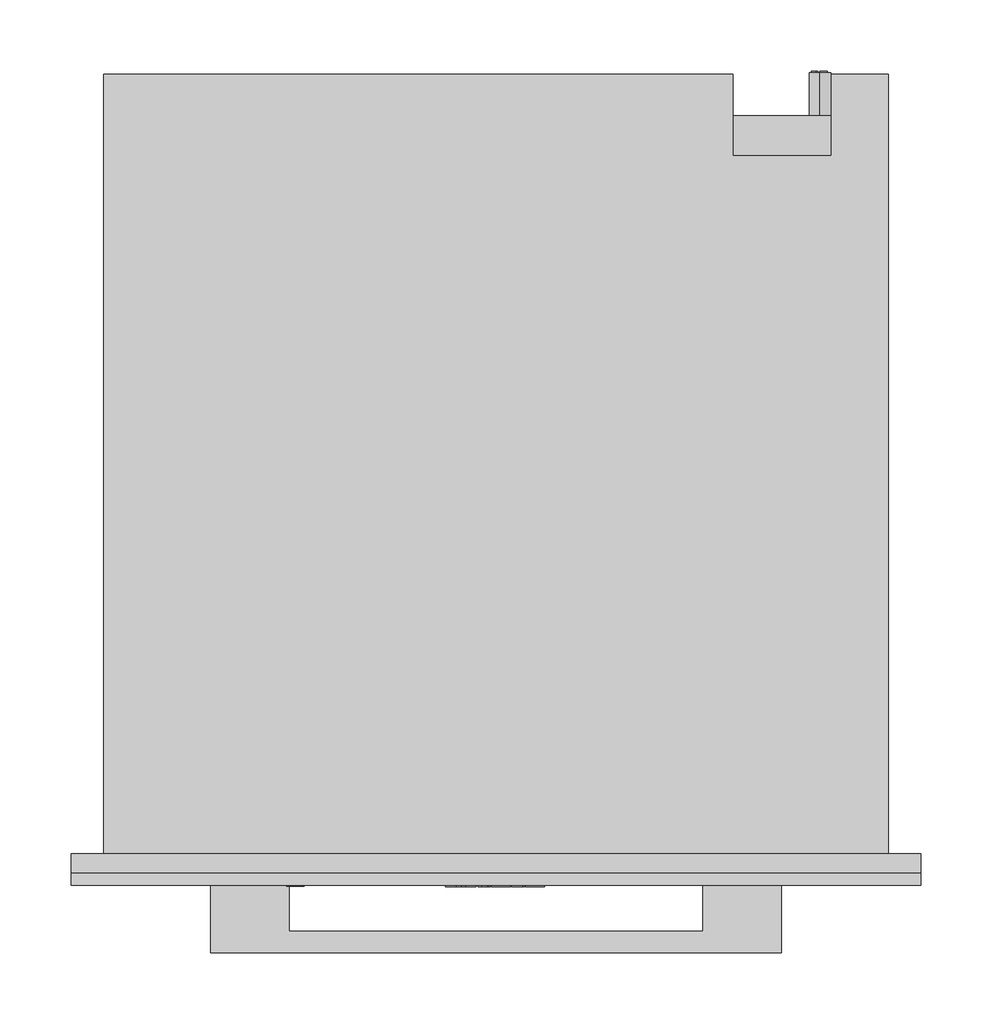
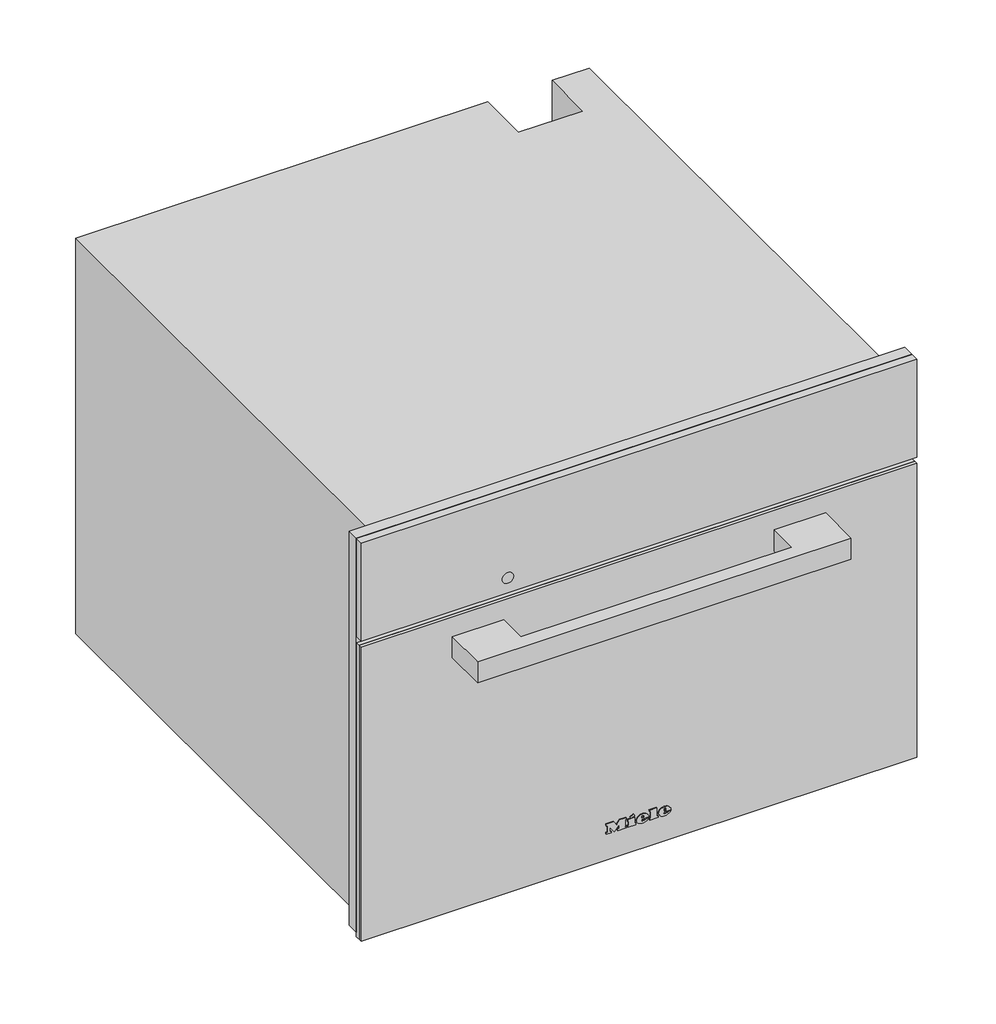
# Not in any storey: 1 proxy.
"""IFC4 building model written with IfcOpenShell, lengths in millimetres."""

import ifcopenshell
import ifcopenshell.guid

model = None  # the IFC model being written
_history = None  # IfcOwnerHistory: only IFC2X3 demands one
_inside = {}  # id of a spatial element -> (the spatial element, [elements in it])
_under = {}  # id of a project, library or spatial element -> (it, [spatial elements below it])
_declared = {}  # id of a project -> (the project, [libraries it declares])
_typed = {}  # id of a type object -> (the type object, [elements of that type])
_made_of = {}  # id of a material, layer set ... -> (it, [elements and type objects made of it])


def new_model(schema):
    """Start an empty IFC model of exactly this schema.

    Asked for "IFC4X3", IfcOpenShell would pick the latest addendum, in which some entities
    have other attributes; the version numbers below select the first issue.
    IFC2X3 requires an IfcOwnerHistory on every rooted entity: one is made here for all.
    """
    global model, _history
    if schema == "IFC4X3":
        model = ifcopenshell.file(schema_version=(4, 3, 0, 0))
    else:
        model = ifcopenshell.file(schema=schema)
    _inside.clear()
    _under.clear()
    _declared.clear()
    _typed.clear()
    _made_of.clear()
    _history = None
    if model.schema == "IFC2X3":
        org = make("IfcOrganization", Name="unknown")
        user = make(
            "IfcPersonAndOrganization",
            ThePerson=make("IfcPerson", FamilyName="unknown"),
            TheOrganization=org,
        )
        app = make(
            "IfcApplication",
            ApplicationDeveloper=org,
            Version="unknown",
            ApplicationFullName="unknown",
            ApplicationIdentifier="unknown",
        )
        _history = make(
            "IfcOwnerHistory",
            OwningUser=user,
            OwningApplication=app,
            ChangeAction="ADDED",
            CreationDate=0,
        )
    return model


def make(cls, **values):
    """One entity of the class cls with the attributes given. An attribute that is None is left unset."""
    return model.create_entity(
        cls, **{name: value for name, value in values.items() if value is not None}
    )


def rooted(cls, **values):
    """An entity with a GlobalId (a new one), such as an element, a storey or a relation."""
    return make(cls, GlobalId=ifcopenshell.guid.new(), OwnerHistory=_history, **values)


def si_unit(unit_type, name, prefix=None):
    """IfcSIUnit, for example si_unit("LENGTHUNIT", "METRE", prefix="MILLI")."""
    return make("IfcSIUnit", UnitType=unit_type, Prefix=prefix, Name=name)


def assignment(units):
    """IfcUnitAssignment: the units of a project."""
    return None if units is None else make("IfcUnitAssignment", Units=units)


def point(xyz):
    """IfcCartesianPoint."""
    return None if xyz is None else make("IfcCartesianPoint", Coordinates=xyz)


def direction(xyz):
    """IfcDirection."""
    return None if xyz is None else make("IfcDirection", DirectionRatios=xyz)


def frame(location, z_axis=None, x_axis=None):
    """IfcAxis2Placement3D, a coordinate frame: its origin and axes. An axis left out is left unset."""
    return make(
        "IfcAxis2Placement3D",
        Location=point(location),
        Axis=direction(z_axis),
        RefDirection=direction(x_axis),
    )


def frame_2d(location, x_axis=None):
    """IfcAxis2Placement2D, a coordinate frame in the plane: its origin and x axis."""
    return make(
        "IfcAxis2Placement2D", Location=point(location), RefDirection=direction(x_axis)
    )


def origin():
    """The frame at (0, 0, 0) with its axes left unset."""
    return frame((0.0, 0.0, 0.0))


def place(relative_to, where):
    """IfcLocalPlacement: puts the frame where relative to a parent placement (None: the world)."""
    return make(
        "IfcLocalPlacement", PlacementRelTo=relative_to, RelativePlacement=where
    )


def context(
    kind, dimensions, precision=None, world=None, true_north=None, identifier=None
):
    """IfcGeometricRepresentationContext, for example the 3D "Model" context."""
    return make(
        "IfcGeometricRepresentationContext",
        ContextIdentifier=identifier,
        ContextType=kind,
        CoordinateSpaceDimension=dimensions,
        Precision=precision,
        WorldCoordinateSystem=world,
        TrueNorth=true_north,
    )


def project(units=None, contexts=None):
    """IfcProject with its units and contexts."""
    return rooted(
        "IfcProject",
        Name="project",
        RepresentationContexts=contexts,
        UnitsInContext=assignment(units),
    )


def spatial(cls, under=None, at=None, **own):
    """A site, building, storey or space (cls), placed at a placement, below another one or the project."""
    s = rooted(cls, ObjectPlacement=at, **own)
    if under is not None:
        _under.setdefault(under.id(), (under, []))[1].append(s)
    return s


def polyline(points):
    """IfcPolyline through the points."""
    return make("IfcPolyline", Points=[point(p) for p in points])


def circle_curve(where, radius):
    """IfcCircle in the frame where."""
    return make("IfcCircle", Position=where, Radius=radius)


def ellipse_curve(where, semi_axis1, semi_axis2):
    """IfcEllipse in the frame where."""
    return make(
        "IfcEllipse", Position=where, SemiAxis1=semi_axis1, SemiAxis2=semi_axis2
    )


def trimmed(basis, trim1, trim2, sense, master):
    """IfcTrimmedCurve: the piece of a basis curve between two trims."""
    return make(
        "IfcTrimmedCurve",
        BasisCurve=basis,
        Trim1=trim1,
        Trim2=trim2,
        SenseAgreement=sense,
        MasterRepresentation=master,
    )


def segment(curve, same_sense, transition):
    """IfcCompositeCurveSegment."""
    return make(
        "IfcCompositeCurveSegment",
        Transition=transition,
        SameSense=same_sense,
        ParentCurve=curve,
    )


def composite_curve(segments, self_intersect=None):
    """IfcCompositeCurve: segments joined end to end."""
    return make("IfcCompositeCurve", Segments=segments, SelfIntersect=self_intersect)


def outline(outer, holes=None, kind="AREA"):
    """IfcArbitraryClosedProfileDef: a profile drawn as a closed curve; with holes, ...WithVoids."""
    if holes is None:
        return make("IfcArbitraryClosedProfileDef", ProfileType=kind, OuterCurve=outer)
    return make(
        "IfcArbitraryProfileDefWithVoids",
        ProfileType=kind,
        OuterCurve=outer,
        InnerCurves=holes,
    )


def extrude(swept, where, along, depth):
    """IfcExtrudedAreaSolid: the profile swept, set in the frame where, extruded along a direction by depth."""
    return make(
        "IfcExtrudedAreaSolid",
        SweptArea=swept,
        Position=where,
        ExtrudedDirection=direction(along),
        Depth=depth,
    )


def faces_of(points, faces, orient=None, outer=None):
    """IfcFace entities. A face is a list of loops; a loop is a list of indices into points, from 0.

    orient and outer hold one flag for each loop. By default every Orientation is true, the
    first loop of a face is its IfcFaceOuterBound and the others are IfcFaceBound.
    """
    made = []
    for i, loops in enumerate(faces):
        bounds = []
        for j, loop in enumerate(loops):
            is_outer = j == 0 if outer is None else outer[i][j]
            bounds.append(
                make(
                    "IfcFaceOuterBound" if is_outer else "IfcFaceBound",
                    Bound=make("IfcPolyLoop", Polygon=[points[k] for k in loop]),
                    Orientation=True if orient is None else orient[i][j],
                )
            )
        made.append(make("IfcFace", Bounds=bounds))
    return made


def faceted_brep(points, faces, orient=None, outer=None, voids=None):
    """IfcFacetedBrep: a solid bounded by flat faces; with voids (closed shells), ...WithVoids."""
    shared = [point(p) for p in points]
    hull = make("IfcClosedShell", CfsFaces=faces_of(shared, faces, orient, outer))
    if voids is None:
        return make("IfcFacetedBrep", Outer=hull)
    return make(
        "IfcFacetedBrepWithVoids",
        Outer=hull,
        Voids=[
            make(cls, CfsFaces=faces_of(shared, fs, o, b)) for cls, fs, o, b in voids
        ],
    )


def shape(context_of_items, identifier, shape_type, items):
    """IfcShapeRepresentation: the items that make up one representation, for example the "Body"."""
    return make(
        "IfcShapeRepresentation",
        ContextOfItems=context_of_items,
        RepresentationIdentifier=identifier,
        RepresentationType=shape_type,
        Items=items,
    )


def source(mapping_origin, context_of_items, identifier, shape_type, items):
    """IfcRepresentationMap: a shape defined once, which mapped items show again and again."""
    return make(
        "IfcRepresentationMap",
        MappingOrigin=mapping_origin,
        MappedRepresentation=shape(context_of_items, identifier, shape_type, items),
    )


def transform(
    local_origin,
    x_axis=None,
    y_axis=None,
    z_axis=None,
    scale=None,
    scale2=None,
    scale3=None,
    uniform=True,
):
    """IfcCartesianTransformationOperator3D, or its non-uniform kind. x_axis, y_axis, z_axis: its Axis1, 2, 3."""
    if uniform:
        return make(
            "IfcCartesianTransformationOperator3D",
            Axis1=direction(x_axis),
            Axis2=direction(y_axis),
            LocalOrigin=point(local_origin),
            Scale=scale,
            Axis3=direction(z_axis),
        )
    return make(
        "IfcCartesianTransformationOperator3DnonUniform",
        Axis1=direction(x_axis),
        Axis2=direction(y_axis),
        LocalOrigin=point(local_origin),
        Scale=scale,
        Axis3=direction(z_axis),
        Scale2=scale2,
        Scale3=scale3,
    )


def mapped(mapping_source, mapping_target):
    """IfcMappedItem: shows the shape of a source again, moved by a transform."""
    return make(
        "IfcMappedItem", MappingSource=mapping_source, MappingTarget=mapping_target
    )


def made_of(thing, what):
    """Note that an element or type object is made of a material, layer set ...; save() writes the relation."""
    if what is not None:
        _made_of.setdefault(what.id(), (what, []))[1].append(thing)
    return thing


def element(
    cls,
    number,
    at=None,
    inside=None,
    cuts=None,
    type_object=None,
    material=None,
    context=None,
    identifier="Body",
    shape_type=None,
    held_by="IfcProductDefinitionShape",
    body=None,
    shapes=None,
    **own,
):
    """One element of the class cls, such as IfcWall. Its Tag is "e" and its number.

    at: its placement. inside: the storey or other place that contains it. cuts: it is an
    opening in that element (IfcRelVoidsElement). A single representation is given by context,
    identifier, shape_type and body (its items); several are given by shapes. held_by: the class
    of the entity that holds the representations. save() writes the other relations.
    """
    e = rooted(cls, Tag="e%d" % number, ObjectPlacement=at, **own)
    if body is not None:
        shapes = [shape(context, identifier, shape_type, body)]
    if shapes is not None:
        e.Representation = make(held_by, Representations=shapes)
    if inside is not None:
        _inside.setdefault(inside.id(), (inside, []))[1].append(e)
    if cuts is not None:
        rooted(
            "IfcRelVoidsElement", RelatingBuildingElement=cuts, RelatedOpeningElement=e
        )
    if type_object is not None:
        _typed.setdefault(type_object.id(), (type_object, []))[1].append(e)
    return made_of(e, material)


def aggregate(whole, parts):
    """IfcRelAggregates: a whole, such as a stair, and the parts it consists of."""
    return rooted("IfcRelAggregates", RelatingObject=whole, RelatedObjects=parts)


def save(model, path):
    """Write the relations noted so far, then the file.

    IfcRelAggregates (storeys below a building ...), IfcRelContainedInSpatialStructure (elements
    in a storey), IfcRelDefinesByType, IfcRelAssociatesMaterial and IfcRelDeclares: one each for
    every whole, place, type object, material and project.
    """
    for whole, parts in _under.values():
        aggregate(whole, parts)
    for where, things in _inside.values():
        rooted(
            "IfcRelContainedInSpatialStructure",
            RelatedElements=things,
            RelatingStructure=where,
        )
    for kind, things in _typed.values():
        rooted("IfcRelDefinesByType", RelatedObjects=things, RelatingType=kind)
    for what, things in _made_of.values():
        rooted("IfcRelAssociatesMaterial", RelatedObjects=things, RelatingMaterial=what)
    for by, libraries in _declared.values():
        rooted("IfcRelDeclares", RelatingContext=by, RelatedDefinitions=libraries)
    model.write(path)


def plane_surface(at):
    """IfcPlane: the flat surface through the origin of the frame at, square to its z axis."""
    return make("IfcPlane", Position=at)


def cylinder_surface(at, radius):
    """IfcCylindricalSurface: all points at the distance radius from the z axis of the frame at."""
    return make("IfcCylindricalSurface", Position=at, Radius=radius)


def revolved_surface(curve, axis_point, axis_direction):
    """IfcSurfaceOfRevolution: the curve turned about the line through axis_point along axis_direction."""
    return make(
        "IfcSurfaceOfRevolution",
        SweptCurve=make("IfcArbitraryOpenProfileDef", ProfileType="CURVE", Curve=curve),
        AxisPosition=make("IfcAxis1Placement", Location=point(axis_point), Axis=direction(axis_direction)),
    )


def extruded_surface(curve, direction_of_extrusion, depth):
    """IfcSurfaceOfLinearExtrusion: the curve pushed along a direction by depth."""
    return make(
        "IfcSurfaceOfLinearExtrusion",
        SweptCurve=make("IfcArbitraryOpenProfileDef", ProfileType="CURVE", Curve=curve),
        ExtrudedDirection=direction(direction_of_extrusion),
        Depth=depth,
    )


def advanced_brep(points, edges, surfaces, faces):
    """IfcAdvancedBrep: a solid bounded by faces that lie on surfaces and meet in shared edges.

    An edge is (start, end): straight between two places in points (the first is 0);
    or (start, end, curve); or (start, end, curve, False) where it runs against its curve.
    A face is (place in surfaces, loops), or (place, loops, False) where it looks against
    its surface's normal. A loop lists edges by number (the first is 1), with a minus sign
    where the edge is run from its end to its start. The first loop is the outer one.
    """
    corners = [point(p) for p in points]
    vertices = [make("IfcVertexPoint", VertexGeometry=c) for c in corners]
    made = []
    for start, end, *more in edges:
        made.append(
            make(
                "IfcEdgeCurve",
                EdgeStart=vertices[start],
                EdgeEnd=vertices[end],
                EdgeGeometry=more[0] if more else make("IfcPolyline", Points=[corners[start], corners[end]]),
                SameSense=more[1] if len(more) > 1 else True,
            )
        )
    hull = []
    for where, loops, *sense in faces:
        bounds = []
        for j, loop in enumerate(loops):
            ring = [make("IfcOrientedEdge", EdgeElement=made[abs(k) - 1], Orientation=k > 0) for k in loop]
            bounds.append(
                make(
                    "IfcFaceOuterBound" if j == 0 else "IfcFaceBound",
                    Bound=make("IfcEdgeLoop", EdgeList=ring),
                    Orientation=True,
                )
            )
        hull.append(make("IfcAdvancedFace", Bounds=bounds, FaceSurface=surfaces[where], SameSense=sense[0] if sense else True))
    return make("IfcAdvancedBrep", Outer=make("IfcClosedShell", CfsFaces=hull))


def specialty_equipment_21fb220e(model_context):
    return source(origin(), model_context, "Body", "SolidModel", [
        extrude(outline(polyline([(455.0, 297.5), (455.0, -297.5), (9.0, -297.5), (9.0, 297.5), (455.0, 297.5)]), holes=[polyline([(344.0, -272.5), (344.0, 272.5), (27.0, 272.5), (27.0, -272.5), (344.0, -272.5)])]), frame((0.0, -13.0, 0.0), z_axis=(0.0, 1.0, 0.0), x_axis=(0.0, 0.0, 1.0)), (0.0, 0.0, 1.0), 13.0),
        advanced_brep(
        [(227.0, 547.0, 255.5), (227.0, 547.0, 240.5), (221.4098301, 547.0, 243.0), (225.5, 547.0, 243.0), (225.5, 547.0, 253.0), (224.4955303, 547.0, 253.0), (224.4955303, 547.0, 244.0), (221.0315043, 547.0, 244.0), (221.0315043, 547.0, 243.4582978), (232.0, 547.0, 243.0), (232.0, 547.0, 253.0), (227.0, 547.0, 253.0), (227.0, 547.0, 252.0), (231.0, 547.0, 252.0), (231.0, 547.0, 248.5), (228.0, 547.0, 248.5), (228.0, 547.0, 247.5), (231.0, 547.0, 247.5), (231.0, 547.0, 244.0), (227.0, 547.0, 244.0), (227.0, 547.0, 243.0), (227.0, 517.0, 240.5), (227.0, 517.0, 255.5), (232.0, 548.0, 253.0), (232.0, 548.0, 243.0), (227.0, 548.0, 243.0), (227.0, 548.0, 244.0), (231.0, 548.0, 244.0), (231.0, 548.0, 247.5), (228.0, 548.0, 247.5), (228.0, 548.0, 248.5), (231.0, 548.0, 248.5), (231.0, 548.0, 252.0), (227.0, 548.0, 252.0), (227.0, 548.0, 253.0), (225.5, 548.0, 243.0), (221.0315043, 548.0, 243.0), (221.0315043, 548.0, 244.0), (224.4955303, 548.0, 244.0), (224.4955303, 548.0, 253.0), (225.5, 548.0, 253.0), (221.0315043, 547.0, 243.0)],
        [
            (0, 1, circle_curve(frame((227.0, 547.0, 248.0), z_axis=(0.0, 1.0, 0.0), x_axis=(0.0, 0.0, 1.0)), 7.5)),
            (1, 2, circle_curve(frame((227.0, 547.0, 248.0), z_axis=(0.0, 1.0, 0.0), x_axis=(0.0, 0.0, 1.0)), 7.5)),
            (2, 3),
            (3, 4),
            (4, 5),
            (5, 6),
            (6, 7),
            (7, 8),
            (8, 0, circle_curve(frame((227.0, 547.0, 248.0), z_axis=(0.0, 1.0, 0.0), x_axis=(0.0, 0.0, 1.0)), 7.5)),
            (9, 10),
            (10, 11),
            (11, 12),
            (12, 13),
            (13, 14),
            (14, 15),
            (15, 16),
            (16, 17),
            (17, 18),
            (18, 19),
            (19, 20),
            (20, 9),
            (21, 22, circle_curve(frame((227.0, 517.0, 248.0), z_axis=(0.0, -1.0, 0.0), x_axis=(0.0, 0.0, 1.0)), 7.5)),
            (22, 21, circle_curve(frame((227.0, 517.0, 248.0), z_axis=(0.0, -1.0, 0.0), x_axis=(0.0, 0.0, 1.0)), 7.5)),
            (0, 22),
            (21, 1),
            (8, 2, circle_curve(frame((227.0, 547.0, 248.0), z_axis=(0.0, -1.0, 0.0), x_axis=(0.0, 0.0, 1.0)), 7.5)),
            (23, 24),
            (24, 25),
            (25, 26),
            (26, 27),
            (27, 28),
            (28, 29),
            (29, 30),
            (30, 31),
            (31, 32),
            (32, 33),
            (33, 34),
            (34, 23),
            (35, 36),
            (36, 37),
            (37, 38),
            (38, 39),
            (39, 40),
            (40, 35),
            (8, 41),
            (41, 2),
            (23, 10),
            (9, 24),
            (20, 25),
            (19, 26),
            (18, 27),
            (17, 28),
            (16, 29),
            (15, 30),
            (14, 31),
            (13, 32),
            (12, 33),
            (11, 34),
            (35, 3),
            (41, 36),
            (7, 37),
            (6, 38),
            (5, 39),
            (4, 40),
        ],
        [
            plane_surface(frame((227.0, 547.0, 255.5), z_axis=(0.0, 1.0, 0.0), x_axis=(1.0, 0.0, 0.0))),
            plane_surface(frame((227.0, 517.0, 255.5), z_axis=(0.0, -1.0, 0.0), x_axis=(-1.0, 0.0, 0.0))),
            cylinder_surface(frame((227.0, 547.0, 248.0), z_axis=(0.0, -1.0, 0.0), x_axis=(0.0, 0.0, 1.0)), 7.5),
            plane_surface(frame((232.0, 548.0, 253.0), z_axis=(0.0, 1.0, 0.0), x_axis=(0.0, 0.0, -1.0))),
            plane_surface(frame((232.0, 547.0, 253.0), z_axis=(0.0, -1.0, 0.0), x_axis=(0.0, 0.0, 1.0))),
            plane_surface(frame((232.0, 548.0, 253.0), z_axis=(1.0, 0.0, 0.0), x_axis=(0.0, -1.0, 0.0))),
            plane_surface(frame((232.0, 548.0, 243.0), z_axis=(0.0, 0.0, -1.0), x_axis=(0.0, -1.0, 0.0))),
            plane_surface(frame((227.0, 548.0, 243.0), z_axis=(-1.0, 0.0, 0.0), x_axis=(0.0, -1.0, 0.0))),
            plane_surface(frame((227.0, 548.0, 244.0), z_axis=(0.0, 0.0, 1.0), x_axis=(0.0, -1.0, 0.0))),
            plane_surface(frame((231.0, 548.0, 244.0), z_axis=(-1.0, 0.0, 0.0), x_axis=(0.0, -1.0, 0.0))),
            plane_surface(frame((231.0, 548.0, 247.5), z_axis=(0.0, 0.0, -1.0), x_axis=(0.0, -1.0, 0.0))),
            plane_surface(frame((228.0, 548.0, 247.5), z_axis=(-1.0, 0.0, 0.0), x_axis=(0.0, -1.0, 0.0))),
            plane_surface(frame((228.0, 548.0, 248.5), z_axis=(0.0, 0.0, 1.0), x_axis=(0.0, -1.0, 0.0))),
            plane_surface(frame((231.0, 548.0, 248.5), z_axis=(-1.0, 0.0, 0.0), x_axis=(0.0, -1.0, 0.0))),
            plane_surface(frame((231.0, 548.0, 252.0), z_axis=(0.0, 0.0, -1.0), x_axis=(0.0, -1.0, 0.0))),
            plane_surface(frame((227.0, 548.0, 252.0), z_axis=(-1.0, 0.0, 0.0), x_axis=(0.0, -1.0, 0.0))),
            plane_surface(frame((227.0, 548.0, 253.0), z_axis=(0.0, 0.0, 1.0), x_axis=(0.0, -1.0, 0.0))),
            plane_surface(frame((225.5, 548.0, 243.0), z_axis=(0.0, 0.0, -1.0), x_axis=(0.0, -1.0, 0.0))),
            plane_surface(frame((221.0315043, 548.0, 243.0), z_axis=(-1.0, 0.0, 0.0), x_axis=(0.0, -1.0, 0.0))),
            plane_surface(frame((221.0315043, 548.0, 244.0), z_axis=(0.0, 0.0, 1.0), x_axis=(0.0, -1.0, 0.0))),
            plane_surface(frame((224.4955303, 548.0, 244.0), z_axis=(-1.0, 0.0, 0.0), x_axis=(0.0, -1.0, 0.0))),
            plane_surface(frame((224.4955303, 548.0, 253.0), z_axis=(0.0, 0.0, 1.0), x_axis=(0.0, -1.0, 0.0))),
            plane_surface(frame((225.5, 548.0, 253.0), z_axis=(1.0, 0.0, 0.0), x_axis=(0.0, -1.0, 0.0))),
        ],
        [
            (0, [[1, 2, 3, 4, 5, 6, 7, 8, 9], [10, 11, 12, 13, 14, 15, 16, 17, 18, 19, 20, 21]]),
            (1, [[22, 23]]),
            (2, [[-1, 24, -22, 25]]),
            (2, [[-23, -24, -9, 26, -2, -25]]),
            (3, [[27, 28, 29, 30, 31, 32, 33, 34, 35, 36, 37, 38]]),
            (3, [[39, 40, 41, 42, 43, 44]]),
            (4, [[45, 46, -26]]),
            (5, [[-27, 47, -10, 48]]),
            (6, [[-28, -48, -21, 49]]),
            (7, [[-29, -49, -20, 50]]),
            (8, [[-30, -50, -19, 51]]),
            (9, [[-31, -51, -18, 52]]),
            (10, [[-32, -52, -17, 53]]),
            (11, [[-33, -53, -16, 54]]),
            (12, [[-34, -54, -15, 55]]),
            (13, [[-35, -55, -14, 56]]),
            (14, [[-36, -56, -13, 57]]),
            (15, [[-37, -57, -12, 58]]),
            (16, [[-38, -58, -11, -47]]),
            (17, [[-39, 59, -3, -46, 60]]),
            (18, [[-40, -60, -45, -8, 61]]),
            (19, [[-41, -61, -7, 62]]),
            (20, [[-42, -62, -6, 63]]),
            (21, [[-43, -63, -5, 64]]),
            (22, [[-44, -64, -4, -59]]),
        ],
    ),
        faceted_brep([(-275.0, 546.0, 0.0), (-275.0, 546.0, 448.0), (166.0, 546.0, 448.0), (166.0, 546.0, 0.0), (235.0, 546.0, 448.0), (275.0, 546.0, 448.0), (275.0, 546.0, 338.0), (235.0, 546.0, 338.0), (275.0, 0.0, 448.0), (-275.0, 0.0, 448.0), (-275.0, 0.0, 0.0), (275.0, 0.0, 0.0), (-272.5, 0.0, 344.0), (272.5, 0.0, 344.0), (272.5, 0.0, 27.0), (-272.5, 0.0, 27.0), (235.0, 489.0, 448.0), (166.0, 489.0, 448.0), (166.0, 517.0, 0.0), (275.0, 517.0, 0.0), (275.0, 517.0, 338.0), (272.5, 17.0, 344.0), (-272.5, 17.0, 344.0), (-272.5, 17.0, 27.0), (272.5, 17.0, 27.0), (231.0, 17.0, 307.0), (231.0, 17.0, 65.0), (-231.0, 17.0, 65.0), (-231.0, 17.0, 307.0), (231.0, 411.0, 307.0), (-231.0, 411.0, 307.0), (-231.0, 411.0, 65.0), (231.0, 411.0, 65.0), (235.0, 489.0, 337.0), (166.0, 489.0, 337.0), (166.0, 517.0, 337.0), (235.0, 517.0, 337.0), (235.0, 517.0, 338.0)], [[[0, 1, 2, 3]], [[4, 5, 6, 7]], [[8, 9, 10, 11], [12, 13, 14, 15]], [[9, 8, 5, 4, 16, 17, 2, 1]], [[1, 0, 10, 9]], [[11, 10, 0, 3, 18, 19]], [[8, 11, 19, 20, 6, 5]], [[21, 22, 23, 24], [25, 26, 27, 28]], [[22, 21, 13, 12]], [[23, 22, 12, 15]], [[24, 23, 15, 14]], [[21, 24, 14, 13]], [[29, 30, 31, 32]], [[29, 32, 26, 25]], [[32, 31, 27, 26]], [[31, 30, 28, 27]], [[30, 29, 25, 28]], [[16, 33, 34, 17]], [[17, 34, 35, 18, 3, 2]], [[34, 33, 36, 35]], [[33, 16, 4, 7, 37, 36]], [[37, 20, 19, 18, 35, 36]], [[20, 37, 7, 6]]]),
        advanced_brep(
        [(26.2998, -23.0, 36.7018), (26.2998, -23.0, 37.8532), (33.9264, -23.0, 37.8532), (20.6568, -23.0, 37.8532), (23.7918, -23.0, 34.0), (33.7326, -23.0, 36.7018), (30.2898, -23.0, 36.7018), (27.5766, -23.0, 35.425), (26.2998, -23.0, 39.3124), (26.2998, -23.0, 40.555), (28.2492, -23.0, 40.555), (28.2492, -23.0, 39.3124), (26.2998, -22.0, 36.7018), (27.5766, -22.0, 35.425), (30.2898, -22.0, 36.7018), (33.7326, -22.0, 36.7018), (23.7918, -22.0, 34.0), (20.6568, -22.0, 37.8532), (33.9264, -22.0, 37.8532), (26.2998, -22.0, 37.8532), (26.2998, -22.0, 39.3124), (28.2492, -22.0, 39.3124), (28.2492, -22.0, 40.555), (26.2998, -22.0, 40.555)],
        [
            (0, 1),
            (1, 2),
            (2, 3, ellipse_curve(frame((27.2916, -23.0, 37.8532), z_axis=(0.0, -1.0, 0.0), x_axis=(-1.0, 0.0, 0.0)), 6.6348, 5.4834)),
            (3, 4, circle_curve(frame((25.0686622, -23.0, 38.2408), z_axis=(0.0, -1.0, 0.0), x_axis=(0.0, 0.0, -1.0)), 4.4288556)),
            (4, 5, circle_curve(frame((27.1587808, -23.0, 41.2504), z_axis=(0.0, -1.0, 0.0), x_axis=(0.0, 0.0, -1.0)), 7.9940516)),
            (5, 6),
            (6, 7, circle_curve(frame((28.1338588, -23.0, 37.762), z_axis=(0.0, 1.0, 0.0), x_axis=(0.0, 0.0, -1.0)), 2.4025208)),
            (7, 0, circle_curve(frame((27.5766, -23.0, 36.7018), z_axis=(0.0, 1.0, 0.0), x_axis=(0.0, 0.0, -1.0)), 1.2768)),
            (8, 9),
            (9, 10, circle_curve(frame((27.2745, -23.0, 40.555), z_axis=(0.0, 1.0, 0.0), x_axis=(0.0, 0.0, -1.0)), 0.9747)),
            (10, 11),
            (11, 8),
            (12, 13, circle_curve(frame((27.5766, -22.0, 36.7018), z_axis=(0.0, -1.0, 0.0), x_axis=(0.0, 0.0, -1.0)), 1.2768)),
            (13, 14, circle_curve(frame((28.1338588, -22.0, 37.762), z_axis=(0.0, -1.0, 0.0), x_axis=(0.0, 0.0, -1.0)), 2.4025208)),
            (14, 15),
            (15, 16, circle_curve(frame((27.1587808, -22.0, 41.2504), z_axis=(0.0, 1.0, 0.0), x_axis=(0.0, 0.0, -1.0)), 7.9940516)),
            (16, 17, circle_curve(frame((25.0686622, -22.0, 38.2408), z_axis=(0.0, 1.0, 0.0), x_axis=(0.0, 0.0, -1.0)), 4.4288556)),
            (17, 18, ellipse_curve(frame((27.2916, -22.0, 37.8532), z_axis=(0.0, 1.0, 0.0), x_axis=(-1.0, 0.0, 0.0)), 6.6348, 5.4834)),
            (18, 19),
            (19, 12),
            (20, 21),
            (21, 22),
            (22, 23, circle_curve(frame((27.2745, -22.0, 40.555), z_axis=(0.0, -1.0, 0.0), x_axis=(0.0, 0.0, -1.0)), 0.9747)),
            (23, 20),
            (0, 12),
            (19, 1),
            (18, 2),
            (5, 15),
            (14, 6),
            (17, 3),
            (13, 7),
            (16, 4),
            (8, 20),
            (23, 9),
            (22, 10),
            (21, 11),
        ],
        [
            plane_surface(frame((26.2998, -23.0, 37.8532), z_axis=(0.0, -1.0, 0.0), x_axis=(0.0, 0.0, 1.0))),
            plane_surface(frame((26.2998, -22.0, 37.8532), z_axis=(0.0, 1.0, 0.0), x_axis=(0.0, 0.0, -1.0))),
            plane_surface(frame((26.2998, -23.0, 36.7018), z_axis=(1.0, 0.0, 0.0), x_axis=(0.0, 1.0, 0.0))),
            plane_surface(frame((26.2998, -23.0, 37.8532), z_axis=(0.0, 0.0, -1.0), x_axis=(0.0, 1.0, 0.0))),
            plane_surface(frame((33.7326, -23.0, 36.7018), z_axis=(0.0, 0.0, 1.0), x_axis=(0.0, 1.0, 0.0))),
            extruded_surface(trimmed(ellipse_curve(frame((27.2916, -21.0, 37.8532), z_axis=(0.0, -1.0, 0.0), x_axis=(-1.0, 0.0, 0.0)), 6.6348, 5.4834), [point((33.9264, -21.0, 37.8532))], [point((20.6568, -21.0, 37.8532))], True, "CARTESIAN"), (0.0, -1.0, 0.0), 1.0),
            revolved_surface(polyline([(28.1338588, -22.0, 35.3594792), (28.1338588, -23.0, 35.3594792)]), (28.1338588, -22.0, 37.762), (0.0, 1.0, 0.0)),
            revolved_surface(polyline([(27.5766, -22.0, 35.425), (27.5766, -23.0, 35.425)]), (27.5766, -22.0, 36.7018), (0.0, 1.0, 0.0)),
            cylinder_surface(frame((25.0686622, -22.0, 38.2408), z_axis=(0.0, -1.0, 0.0), x_axis=(0.0, 0.0, -1.0)), 4.4288556),
            cylinder_surface(frame((27.1587808, -22.0, 41.2504), z_axis=(0.0, -1.0, 0.0), x_axis=(0.0, 0.0, -1.0)), 7.9940516),
            plane_surface(frame((26.2998, -23.0, 39.3124), z_axis=(1.0, 0.0, 0.0), x_axis=(0.0, 1.0, 0.0))),
            revolved_surface(polyline([(27.2745, -22.0, 39.5803), (27.2745, -23.0, 39.5803)]), (27.2745, -22.0, 40.555), (0.0, 1.0, 0.0)),
            plane_surface(frame((28.2492, -23.0, 40.555), z_axis=(-1.0, 0.0, 0.0), x_axis=(0.0, 1.0, 0.0))),
            plane_surface(frame((28.2492, -23.0, 39.3124), z_axis=(0.0, 0.0, 1.0), x_axis=(0.0, 1.0, 0.0))),
        ],
        [
            (0, [[1, 2, 3, 4, 5, 6, 7, 8], [9, 10, 11, 12]]),
            (1, [[13, 14, 15, 16, 17, 18, 19, 20], [21, 22, 23, 24]]),
            (2, [[-1, 25, -20, 26]]),
            (3, [[-2, -26, -19, 27]]),
            (4, [[-6, 28, -15, 29]]),
            (5, [[-3, -27, -18, 30]]),
            (6, [[-7, -29, -14, 31]]),
            (7, [[-8, -31, -13, -25]]),
            (8, [[-4, -30, -17, 32]]),
            (9, [[-5, -32, -16, -28]]),
            (10, [[-9, 33, -24, 34]]),
            (11, [[-10, -34, -23, 35]]),
            (12, [[-11, -35, -22, 36]]),
            (13, [[-12, -36, -21, -33]]),
        ],
    ),
        advanced_brep(
        [(2.508, -23.0, 36.7018), (2.508, -23.0, 37.8532), (10.1346, -23.0, 37.8532), (-3.135, -23.0, 37.8532), (0.0, -23.0, 34.0), (9.9408, -23.0, 36.7018), (6.498, -23.0, 36.7018), (3.7848, -23.0, 35.425), (2.508, -23.0, 39.3124), (2.508, -23.0, 40.555), (4.4574, -23.0, 40.555), (4.4574, -23.0, 39.3124), (2.508, -22.0, 36.7018), (3.7848, -22.0, 35.425), (6.498, -22.0, 36.7018), (9.9408, -22.0, 36.7018), (0.0, -22.0, 34.0), (-3.135, -22.0, 37.8532), (10.1346, -22.0, 37.8532), (2.508, -22.0, 37.8532), (2.508, -22.0, 39.3124), (4.4574, -22.0, 39.3124), (4.4574, -22.0, 40.555), (2.508, -22.0, 40.555)],
        [
            (0, 1),
            (1, 2),
            (2, 3, ellipse_curve(frame((3.4998, -23.0, 37.8532), z_axis=(0.0, -1.0, 0.0), x_axis=(-1.0, 0.0, 0.0)), 6.6348, 5.4834)),
            (3, 4, circle_curve(frame((1.2768622, -23.0, 38.2408), z_axis=(0.0, -1.0, 0.0), x_axis=(0.0, 0.0, -1.0)), 4.4288556)),
            (4, 5, circle_curve(frame((3.3669808, -23.0, 41.2504), z_axis=(0.0, -1.0, 0.0), x_axis=(0.0, 0.0, -1.0)), 7.9940516)),
            (5, 6),
            (6, 7, circle_curve(frame((4.3420588, -23.0, 37.762), z_axis=(0.0, 1.0, 0.0), x_axis=(0.0, 0.0, -1.0)), 2.4025208)),
            (7, 0, circle_curve(frame((3.7848, -23.0, 36.7018), z_axis=(0.0, 1.0, 0.0), x_axis=(0.0, 0.0, -1.0)), 1.2768)),
            (8, 9),
            (9, 10, circle_curve(frame((3.4827, -23.0, 40.555), z_axis=(0.0, 1.0, 0.0), x_axis=(0.0, 0.0, -1.0)), 0.9747)),
            (10, 11),
            (11, 8),
            (12, 13, circle_curve(frame((3.7848, -22.0, 36.7018), z_axis=(0.0, -1.0, 0.0), x_axis=(0.0, 0.0, -1.0)), 1.2768)),
            (13, 14, circle_curve(frame((4.3420588, -22.0, 37.762), z_axis=(0.0, -1.0, 0.0), x_axis=(0.0, 0.0, -1.0)), 2.4025208)),
            (14, 15),
            (15, 16, circle_curve(frame((3.3669808, -22.0, 41.2504), z_axis=(0.0, 1.0, 0.0), x_axis=(0.0, 0.0, -1.0)), 7.9940516)),
            (16, 17, circle_curve(frame((1.2768622, -22.0, 38.2408), z_axis=(0.0, 1.0, 0.0), x_axis=(0.0, 0.0, -1.0)), 4.4288556)),
            (17, 18, ellipse_curve(frame((3.4998, -22.0, 37.8532), z_axis=(0.0, 1.0, 0.0), x_axis=(-1.0, 0.0, 0.0)), 6.6348, 5.4834)),
            (18, 19),
            (19, 12),
            (20, 21),
            (21, 22),
            (22, 23, circle_curve(frame((3.4827, -22.0, 40.555), z_axis=(0.0, -1.0, 0.0), x_axis=(0.0, 0.0, -1.0)), 0.9747)),
            (23, 20),
            (0, 12),
            (19, 1),
            (18, 2),
            (5, 15),
            (14, 6),
            (17, 3),
            (13, 7),
            (16, 4),
            (8, 20),
            (23, 9),
            (22, 10),
            (21, 11),
        ],
        [
            plane_surface(frame((2.508, -23.0, 37.8532), z_axis=(0.0, -1.0, 0.0), x_axis=(0.0, 0.0, 1.0))),
            plane_surface(frame((2.508, -22.0, 37.8532), z_axis=(0.0, 1.0, 0.0), x_axis=(0.0, 0.0, -1.0))),
            plane_surface(frame((2.508, -23.0, 36.7018), z_axis=(1.0, 0.0, 0.0), x_axis=(0.0, 1.0, 0.0))),
            plane_surface(frame((2.508, -23.0, 37.8532), z_axis=(0.0, 0.0, -1.0), x_axis=(0.0, 1.0, 0.0))),
            plane_surface(frame((9.9408, -23.0, 36.7018), z_axis=(0.0, 0.0, 1.0), x_axis=(0.0, 1.0, 0.0))),
            extruded_surface(trimmed(ellipse_curve(frame((3.4998, -21.0, 37.8532), z_axis=(0.0, -1.0, 0.0), x_axis=(-1.0, 0.0, 0.0)), 6.6348, 5.4834), [point((10.1346, -21.0, 37.8532))], [point((-3.135, -21.0, 37.8532))], True, "CARTESIAN"), (0.0, -1.0, 0.0), 1.0),
            revolved_surface(polyline([(4.3420588, -22.0, 35.3594792), (4.3420588, -23.0, 35.3594792)]), (4.3420588, -22.0, 37.762), (0.0, 1.0, 0.0)),
            revolved_surface(polyline([(3.7848, -22.0, 35.425), (3.7848, -23.0, 35.425)]), (3.7848, -22.0, 36.7018), (0.0, 1.0, 0.0)),
            cylinder_surface(frame((1.2768622, -22.0, 38.2408), z_axis=(0.0, -1.0, 0.0), x_axis=(0.0, 0.0, -1.0)), 4.4288556),
            cylinder_surface(frame((3.3669808, -22.0, 41.2504), z_axis=(0.0, -1.0, 0.0), x_axis=(0.0, 0.0, -1.0)), 7.9940516),
            plane_surface(frame((2.508, -23.0, 39.3124), z_axis=(1.0, 0.0, 0.0), x_axis=(0.0, 1.0, 0.0))),
            revolved_surface(polyline([(3.4827, -22.0, 39.5803), (3.4827, -23.0, 39.5803)]), (3.4827, -22.0, 40.555), (0.0, 1.0, 0.0)),
            plane_surface(frame((4.4574, -23.0, 40.555), z_axis=(-1.0, 0.0, 0.0), x_axis=(0.0, 1.0, 0.0))),
            plane_surface(frame((4.4574, -23.0, 39.3124), z_axis=(0.0, 0.0, 1.0), x_axis=(0.0, 1.0, 0.0))),
        ],
        [
            (0, [[1, 2, 3, 4, 5, 6, 7, 8], [9, 10, 11, 12]]),
            (1, [[13, 14, 15, 16, 17, 18, 19, 20], [21, 22, 23, 24]]),
            (2, [[-1, 25, -20, 26]]),
            (3, [[-2, -26, -19, 27]]),
            (4, [[-6, 28, -15, 29]]),
            (5, [[-3, -27, -18, 30]]),
            (6, [[-7, -29, -14, 31]]),
            (7, [[-8, -31, -13, -25]]),
            (8, [[-4, -30, -17, 32]]),
            (9, [[-5, -32, -16, -28]]),
            (10, [[-9, 33, -24, 34]]),
            (11, [[-10, -34, -23, 35]]),
            (12, [[-11, -35, -22, 36]]),
            (13, [[-12, -36, -21, -33]]),
        ],
    ),
        extrude(outline(polyline([(44.7274, -9.9522), (42.8806, -9.0858), (44.6818, -5.2212), (46.5286, -6.0762), (44.7274, -9.9522)])), frame((0.0, -23.0, 0.0), z_axis=(0.0, 1.0, 0.0), x_axis=(0.0, 0.0, 1.0)), (0.0, 0.0, 1.0), 1.0),
        extrude(outline(polyline([(42.6298, -12.768), (40.5892, -12.768), (40.5892, -11.4114), (35.9152, -11.4114), (35.9152, -12.768), (34.0, -12.768), (34.0, -3.7734), (35.9152, -3.7734), (35.9152, -5.0958), (42.6298, -5.0958), (42.6298, -12.768)])), frame((0.0, -23.0, 0.0), z_axis=(0.0, 1.0, 0.0), x_axis=(0.0, 0.0, 1.0)), (0.0, 0.0, 1.0), 1.0),
        extrude(outline(polyline([(43.5418, 10.773), (43.5418, 12.141), (35.9152, 12.141), (35.9152, 10.773), (34.0, 10.773), (34.0, 20.0184), (35.9152, 20.0184), (35.9152, 18.6162), (45.4, 18.6162), (45.4, 10.773), (43.5418, 10.773)])), frame((0.0, -23.0, 0.0), z_axis=(0.0, 1.0, 0.0), x_axis=(0.0, 0.0, 1.0)), (0.0, 0.0, 1.0), 1.0),
        extrude(outline(polyline([(43.5418, -35.4882), (43.5418, -34.1088), (35.9152, -34.1088), (35.9152, -35.4882), (34.0, -35.4882), (34.0, -30.4722), (35.9152, -30.4722), (35.9152, -31.8402), (40.7429247, -31.8402), (34.0, -26.7444), (40.9402223, -21.6258), (35.9152, -21.6258), (35.9152, -23.028), (34.0, -23.028), (34.0, -13.9308), (35.9152, -13.9308), (35.9152, -15.3786), (43.5418, -15.3786), (43.5418, -13.9308), (45.4, -13.9308), (45.4, -20.8734), (41.125, -24.2022), (45.4, -27.5424), (45.4, -35.4882), (43.5418, -35.4882)])), frame((0.0, -23.0, 0.0), z_axis=(0.0, 1.0, 0.0), x_axis=(0.0, 0.0, 1.0)), (0.0, 0.0, 1.0), 1.0),
        extrude(outline(polyline([(297.5, -22.0), (-297.5, -22.0), (-297.5, -13.0), (297.5, -13.0), (297.5, -22.0)])), frame((0.0, 0.0, 344.0), z_axis=(0.0, 0.0, 1.0), x_axis=(1.0, 0.0, 0.0)), (0.0, 0.0, 1.0), 111.0),
        extrude(outline(composite_curve([segment(trimmed(circle_curve(frame_2d((361.0, -140.5745637)), 6.0), [point((361.0, -146.5745637))], [point((361.0, -134.5745637))], False, "CARTESIAN"), True, "CONTINUOUS"), segment(trimmed(circle_curve(frame_2d((361.0, -140.5745637)), 6.0), [point((361.0, -134.5745637))], [point((361.0, -146.5745637))], False, "CARTESIAN"), True, "CONTINUOUS")], self_intersect=False)), frame((0.0, -22.5, 0.0), z_axis=(0.0, 1.0, 0.0), x_axis=(0.0, 0.0, 1.0)), (0.0, 0.0, 1.0), 1.0),
        extrude(outline(polyline([(-200.0, -69.0), (-200.0, -22.0), (-145.0, -22.0), (-145.0, -54.0), (145.0, -54.0), (145.0, -22.0), (200.0, -22.0), (200.0, -69.0), (-200.0, -69.0)])), frame((0.0, 0.0, 291.0), z_axis=(0.0, 0.0, 1.0), x_axis=(1.0, 0.0, 0.0)), (0.0, 0.0, 1.0), 24.0),
        extrude(outline(polyline([(297.5, -18.0), (-297.5, -18.0), (-297.5, -13.0), (297.5, -13.0), (297.5, -18.0)])), frame((0.0, 0.0, 4.0), z_axis=(0.0, 0.0, 1.0), x_axis=(1.0, 0.0, 0.0)), (0.0, 0.0, 1.0), 333.0),
        extrude(outline(polyline([(-297.5, -18.0), (297.5, -18.0), (297.5, -22.0), (-297.5, -22.0), (-297.5, -18.0)])), frame((0.0, 0.0, 4.0), z_axis=(0.0, 0.0, 1.0), x_axis=(1.0, 0.0, 0.0)), (0.0, 0.0, 1.0), 333.0),
    ])


model = new_model("IFC4")

# Units and contexts
model_context = context("Model", 3, world=origin())
ifc_project = project(units=[si_unit("LENGTHUNIT", "METRE", prefix="MILLI")], contexts=[model_context])

# Site, building
site = spatial("IfcSite", under=ifc_project)
building = spatial("IfcBuilding", under=site)

# Proxy
placement = place(None, origin())
specialty_equipment_shape = specialty_equipment_21fb220e(model_context)
element("IfcBuildingElementProxy", 1, Name="12116980_I_DGC7840HCPro_GRGR : 23784038_I_12116980_DGC7840HCPro_GRGR", ObjectType="12116980_I_DGC7840HCPro_GRGR : 23784038_I_12116980_DGC7840HCPro_GRGR", at=placement, inside=building, context=model_context, shape_type="MappedRepresentation", body=[
    mapped(specialty_equipment_shape, transform((0.0, 0.0, 0.0), x_axis=(1.0, 0.0, 0.0), y_axis=(0.0, 1.0, 0.0), z_axis=(0.0, 0.0, 1.0))),
])

save(model, "model.ifc")
